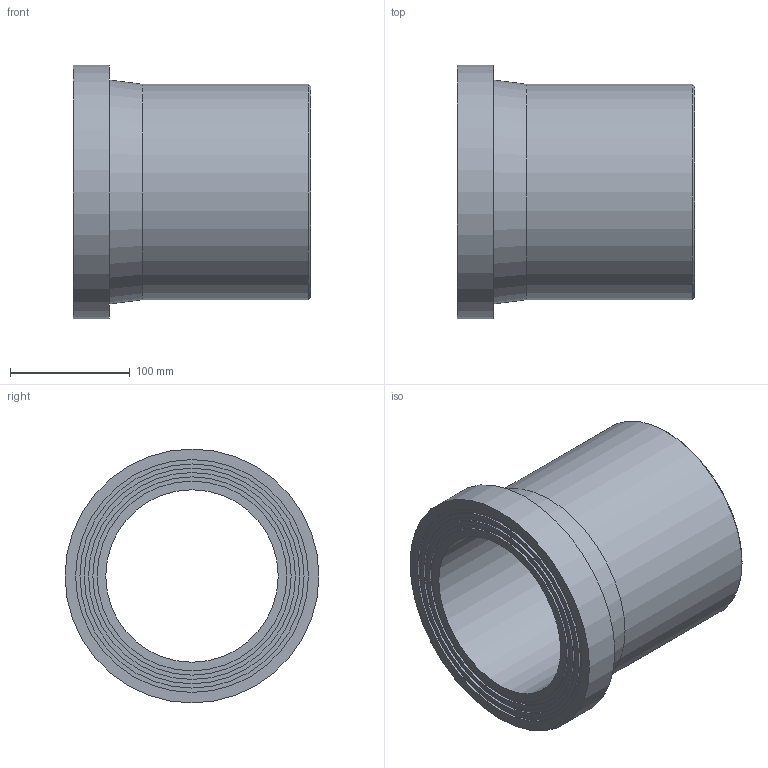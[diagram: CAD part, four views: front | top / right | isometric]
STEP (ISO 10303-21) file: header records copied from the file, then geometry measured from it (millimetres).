
FILE_DESCRIPTION(/* description */ ('Stub Flange 180'),/* implementation_level */ '2;1');
FILE_NAME(/* name */ 'C:\Dropbox\KIMPROJECTS-Inventor\99-16-3568-Processing\ElectroFusion Fittings\31.03.19\490207\490207180.ipt.stp',/* time_stamp */ '2019-03-31T18:57:49+03:00',/* author */ ('Кирилл'),/* organization */ (''),/* preprocessor_version */ 'ST-DEVELOPER v15.6',/* originating_system */ 'Autodesk Inventor 2015',/* authorisation */ '');
FILE_SCHEMA (('AUTOMOTIVE_DESIGN { 1 0 10303 214 3 1 1 }'));
Length unit declared in the file: millimetre
Products named in the file (1): 490207180
Bounding box: 198 x 212 x 212 mm (x, y, z)
Volume: 2125801 mm3; surface area: 246381.7 mm2
Topology: 1 solids, 1 shells, 20 faces, 31 edges, 20 vertices
Faces by surface type: cylinder 9, plane 9, cone 2
Full cylindrical faces by diameter (mm): 144 x1, 158.4 x1, 165.6 x1, 172.8 x1, 180 x2, 187.2 x1, 194.4 x1, 212 x1
Entity records: 432 total; most frequent: DIRECTION 82, CARTESIAN_POINT 61, AXIS2_PLACEMENT_3D 41, EDGE_LOOP 40, ORIENTED_EDGE 40, FACE_BOUND 20, FACE_OUTER_BOUND 20, CIRCLE 20
